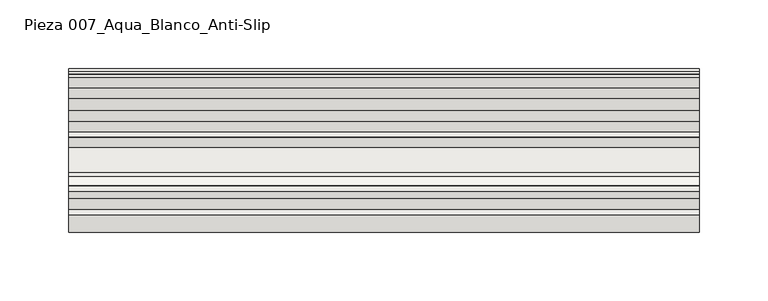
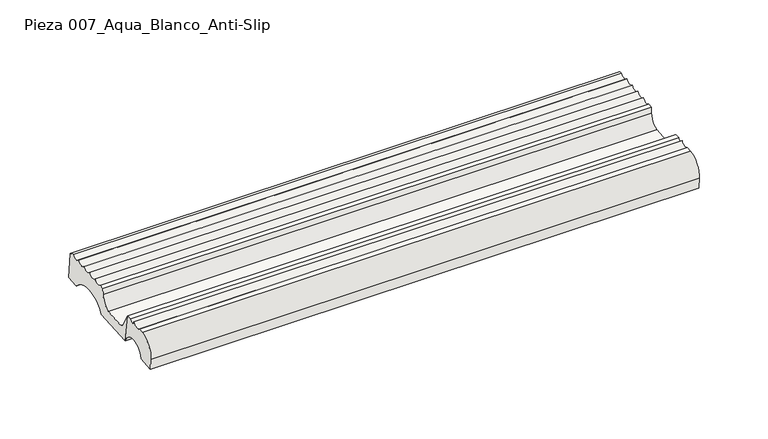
"""IFC4 building model written with IfcOpenShell, lengths in millimetres: slab geometry, ROSA GRES_007 : Pieza 007_Aqua_Blanco_Anti-Slip."""

import ifcopenshell
import ifcopenshell.guid

model = None  # the IFC model being written
_history = None  # IfcOwnerHistory: only IFC2X3 demands one
_inside = {}  # id of a spatial element -> (the spatial element, [elements in it])
_under = {}  # id of a project, library or spatial element -> (it, [spatial elements below it])
_declared = {}  # id of a project -> (the project, [libraries it declares])
_typed = {}  # id of a type object -> (the type object, [elements of that type])
_made_of = {}  # id of a material, layer set ... -> (it, [elements and type objects made of it])


def new_model(schema):
    """Start an empty IFC model of exactly this schema.

    Asked for "IFC4X3", IfcOpenShell would pick the latest addendum, in which some entities
    have other attributes; the version numbers below select the first issue.
    IFC2X3 requires an IfcOwnerHistory on every rooted entity: one is made here for all.
    """
    global model, _history
    if schema == "IFC4X3":
        model = ifcopenshell.file(schema_version=(4, 3, 0, 0))
    else:
        model = ifcopenshell.file(schema=schema)
    _inside.clear()
    _under.clear()
    _declared.clear()
    _typed.clear()
    _made_of.clear()
    _history = None
    if model.schema == "IFC2X3":
        org = make("IfcOrganization", Name="unknown")
        user = make(
            "IfcPersonAndOrganization",
            ThePerson=make("IfcPerson", FamilyName="unknown"),
            TheOrganization=org,
        )
        app = make(
            "IfcApplication",
            ApplicationDeveloper=org,
            Version="unknown",
            ApplicationFullName="unknown",
            ApplicationIdentifier="unknown",
        )
        _history = make(
            "IfcOwnerHistory",
            OwningUser=user,
            OwningApplication=app,
            ChangeAction="ADDED",
            CreationDate=0,
        )
    return model


def make(cls, **values):
    """One entity of the class cls with the attributes given. An attribute that is None is left unset."""
    return model.create_entity(
        cls, **{name: value for name, value in values.items() if value is not None}
    )


def rooted(cls, **values):
    """An entity with a GlobalId (a new one), such as an element, a storey or a relation."""
    return make(cls, GlobalId=ifcopenshell.guid.new(), OwnerHistory=_history, **values)


def si_unit(unit_type, name, prefix=None):
    """IfcSIUnit, for example si_unit("LENGTHUNIT", "METRE", prefix="MILLI")."""
    return make("IfcSIUnit", UnitType=unit_type, Prefix=prefix, Name=name)


def assignment(units):
    """IfcUnitAssignment: the units of a project."""
    return None if units is None else make("IfcUnitAssignment", Units=units)


def point(xyz):
    """IfcCartesianPoint."""
    return None if xyz is None else make("IfcCartesianPoint", Coordinates=xyz)


def direction(xyz):
    """IfcDirection."""
    return None if xyz is None else make("IfcDirection", DirectionRatios=xyz)


def frame(location, z_axis=None, x_axis=None):
    """IfcAxis2Placement3D, a coordinate frame: its origin and axes. An axis left out is left unset."""
    return make(
        "IfcAxis2Placement3D",
        Location=point(location),
        Axis=direction(z_axis),
        RefDirection=direction(x_axis),
    )


def frame_2d(location, x_axis=None):
    """IfcAxis2Placement2D, a coordinate frame in the plane: its origin and x axis."""
    return make(
        "IfcAxis2Placement2D", Location=point(location), RefDirection=direction(x_axis)
    )


def origin():
    """The frame at (0, 0, 0) with its axes left unset."""
    return frame((0.0, 0.0, 0.0))


def place(relative_to, where):
    """IfcLocalPlacement: puts the frame where relative to a parent placement (None: the world)."""
    return make(
        "IfcLocalPlacement", PlacementRelTo=relative_to, RelativePlacement=where
    )


def context(
    kind, dimensions, precision=None, world=None, true_north=None, identifier=None
):
    """IfcGeometricRepresentationContext, for example the 3D "Model" context."""
    return make(
        "IfcGeometricRepresentationContext",
        ContextIdentifier=identifier,
        ContextType=kind,
        CoordinateSpaceDimension=dimensions,
        Precision=precision,
        WorldCoordinateSystem=world,
        TrueNorth=true_north,
    )


def project(units=None, contexts=None):
    """IfcProject with its units and contexts."""
    return rooted(
        "IfcProject",
        Name="project",
        RepresentationContexts=contexts,
        UnitsInContext=assignment(units),
    )


def spatial(cls, under=None, at=None, **own):
    """A site, building, storey or space (cls), placed at a placement, below another one or the project."""
    s = rooted(cls, ObjectPlacement=at, **own)
    if under is not None:
        _under.setdefault(under.id(), (under, []))[1].append(s)
    return s


def polyline(points):
    """IfcPolyline through the points."""
    return make("IfcPolyline", Points=[point(p) for p in points])


def circle_curve(where, radius):
    """IfcCircle in the frame where."""
    return make("IfcCircle", Position=where, Radius=radius)


def trimmed(basis, trim1, trim2, sense, master):
    """IfcTrimmedCurve: the piece of a basis curve between two trims."""
    return make(
        "IfcTrimmedCurve",
        BasisCurve=basis,
        Trim1=trim1,
        Trim2=trim2,
        SenseAgreement=sense,
        MasterRepresentation=master,
    )


def segment(curve, same_sense, transition):
    """IfcCompositeCurveSegment."""
    return make(
        "IfcCompositeCurveSegment",
        Transition=transition,
        SameSense=same_sense,
        ParentCurve=curve,
    )


def composite_curve(segments, self_intersect=None):
    """IfcCompositeCurve: segments joined end to end."""
    return make("IfcCompositeCurve", Segments=segments, SelfIntersect=self_intersect)


def outline(outer, holes=None, kind="AREA"):
    """IfcArbitraryClosedProfileDef: a profile drawn as a closed curve; with holes, ...WithVoids."""
    if holes is None:
        return make("IfcArbitraryClosedProfileDef", ProfileType=kind, OuterCurve=outer)
    return make(
        "IfcArbitraryProfileDefWithVoids",
        ProfileType=kind,
        OuterCurve=outer,
        InnerCurves=holes,
    )


def extrude(swept, where, along, depth):
    """IfcExtrudedAreaSolid: the profile swept, set in the frame where, extruded along a direction by depth."""
    return make(
        "IfcExtrudedAreaSolid",
        SweptArea=swept,
        Position=where,
        ExtrudedDirection=direction(along),
        Depth=depth,
    )


def shape(context_of_items, identifier, shape_type, items):
    """IfcShapeRepresentation: the items that make up one representation, for example the "Body"."""
    return make(
        "IfcShapeRepresentation",
        ContextOfItems=context_of_items,
        RepresentationIdentifier=identifier,
        RepresentationType=shape_type,
        Items=items,
    )


def source(mapping_origin, context_of_items, identifier, shape_type, items):
    """IfcRepresentationMap: a shape defined once, which mapped items show again and again."""
    return make(
        "IfcRepresentationMap",
        MappingOrigin=mapping_origin,
        MappedRepresentation=shape(context_of_items, identifier, shape_type, items),
    )


def transform(
    local_origin,
    x_axis=None,
    y_axis=None,
    z_axis=None,
    scale=None,
    scale2=None,
    scale3=None,
    uniform=True,
):
    """IfcCartesianTransformationOperator3D, or its non-uniform kind. x_axis, y_axis, z_axis: its Axis1, 2, 3."""
    if uniform:
        return make(
            "IfcCartesianTransformationOperator3D",
            Axis1=direction(x_axis),
            Axis2=direction(y_axis),
            LocalOrigin=point(local_origin),
            Scale=scale,
            Axis3=direction(z_axis),
        )
    return make(
        "IfcCartesianTransformationOperator3DnonUniform",
        Axis1=direction(x_axis),
        Axis2=direction(y_axis),
        LocalOrigin=point(local_origin),
        Scale=scale,
        Axis3=direction(z_axis),
        Scale2=scale2,
        Scale3=scale3,
    )


def mapped(mapping_source, mapping_target):
    """IfcMappedItem: shows the shape of a source again, moved by a transform."""
    return make(
        "IfcMappedItem", MappingSource=mapping_source, MappingTarget=mapping_target
    )


def made_of(thing, what):
    """Note that an element or type object is made of a material, layer set ...; save() writes the relation."""
    if what is not None:
        _made_of.setdefault(what.id(), (what, []))[1].append(thing)
    return thing


def element(
    cls,
    number,
    at=None,
    inside=None,
    cuts=None,
    type_object=None,
    material=None,
    context=None,
    identifier="Body",
    shape_type=None,
    held_by="IfcProductDefinitionShape",
    body=None,
    shapes=None,
    **own,
):
    """One element of the class cls, such as IfcWall. Its Tag is "e" and its number.

    at: its placement. inside: the storey or other place that contains it. cuts: it is an
    opening in that element (IfcRelVoidsElement). A single representation is given by context,
    identifier, shape_type and body (its items); several are given by shapes. held_by: the class
    of the entity that holds the representations. save() writes the other relations.
    """
    e = rooted(cls, Tag="e%d" % number, ObjectPlacement=at, **own)
    if body is not None:
        shapes = [shape(context, identifier, shape_type, body)]
    if shapes is not None:
        e.Representation = make(held_by, Representations=shapes)
    if inside is not None:
        _inside.setdefault(inside.id(), (inside, []))[1].append(e)
    if cuts is not None:
        rooted(
            "IfcRelVoidsElement", RelatingBuildingElement=cuts, RelatedOpeningElement=e
        )
    if type_object is not None:
        _typed.setdefault(type_object.id(), (type_object, []))[1].append(e)
    return made_of(e, material)


def aggregate(whole, parts):
    """IfcRelAggregates: a whole, such as a stair, and the parts it consists of."""
    return rooted("IfcRelAggregates", RelatingObject=whole, RelatedObjects=parts)


def save(model, path):
    """Write the relations noted so far, then the file.

    IfcRelAggregates (storeys below a building ...), IfcRelContainedInSpatialStructure (elements
    in a storey), IfcRelDefinesByType, IfcRelAssociatesMaterial and IfcRelDeclares: one each for
    every whole, place, type object, material and project.
    """
    for whole, parts in _under.values():
        aggregate(whole, parts)
    for where, things in _inside.values():
        rooted(
            "IfcRelContainedInSpatialStructure",
            RelatedElements=things,
            RelatingStructure=where,
        )
    for kind, things in _typed.values():
        rooted("IfcRelDefinesByType", RelatedObjects=things, RelatingType=kind)
    for what, things in _made_of.values():
        rooted("IfcRelAssociatesMaterial", RelatedObjects=things, RelatingMaterial=what)
    for by, libraries in _declared.values():
        rooted("IfcRelDeclares", RelatingContext=by, RelatedDefinitions=libraries)
    model.write(path)


def pieza_007_aqua_blanco_anti_slip_1cb17571(model_context):
    return source(origin(), model_context, "Body", "SweptSolid", [
        extrude(outline(composite_curve([segment(polyline([(14.3742659, 174.3159971), (0.6896004, 173.202129), (-0.0710994, 182.547869)]), True, "CONTINUOUS"), segment(trimmed(circle_curve(frame_2d((15.1536138, 183.7870899)), 15.2750633), [point((-0.0710994, 182.547869))], [point((12.7748841, 198.875801))], False, "CARTESIAN"), True, "CONTINUOUS"), segment(polyline([(12.7748841, 198.875801), (16.9364731, 199.1796191)]), True, "CONTINUOUS"), segment(trimmed(circle_curve(frame_2d((20.3008643, 202.7650351)), 4.9167404), [point((16.9364731, 199.1796191))], [point((24.7247274, 200.6193952))], True, "CARTESIAN"), True, "CONTINUOUS"), segment(trimmed(circle_curve(frame_2d((27.3971937, 201.142641)), 2.7232081), [point((24.7247274, 200.6193952))], [point((29.9345538, 200.1538709))], True, "CARTESIAN"), True, "CONTINUOUS"), segment(polyline([(29.9345538, 200.1538709), (33.8762309, 200.4746837), (37.1820416, 176.172444)]), True, "CONTINUOUS"), segment(trimmed(circle_curve(frame_2d((25.9545763, 173.0767428)), 11.6464304), [point((37.1820416, 176.172444))], [point((14.3742659, 174.3159971))], True, "CARTESIAN"), True, "CONTINUOUS")], self_intersect=False)), frame((0.0, 0.0, 0.0), z_axis=(1.0, 0.0, 0.0), x_axis=(0.0, 1.0, 0.0)), (0.0, 0.0, 1.0), 459.8179054),
        extrude(outline(composite_curve([segment(polyline([(71.8498608, 178.9942432), (37.1820416, 176.172444), (33.8762309, 200.4746837)]), True, "CONTINUOUS"), segment(trimmed(circle_curve(frame_2d((106.9597263, 233.2212806)), 80.084561), [point((33.8762309, 200.4746837))], [point((40.9402045, 187.8896178))], True, "CARTESIAN"), True, "CONTINUOUS"), segment(trimmed(circle_curve(frame_2d((43.5817022, 189.3117604)), 3.0), [point((40.9402045, 187.8896178))], [point((43.8250834, 186.3216491))], True, "CARTESIAN"), True, "CONTINUOUS"), segment(polyline([(43.8250834, 186.3216491), (61.867532, 187.7902205)]), True, "CONTINUOUS"), segment(trimmed(circle_curve(frame_2d((57.0579989, 199.0821231)), 12.2734948), [point((61.867532, 187.7902205))], [point((69.3023399, 198.236672))], True, "CARTESIAN"), True, "CONTINUOUS"), segment(polyline([(69.3023399, 198.236672), (69.6579726, 203.3871621), (73.3820924, 203.6902881)]), True, "CONTINUOUS"), segment(trimmed(circle_curve(frame_2d((76.8218788, 206.722806)), 4.5856619), [point((73.3820924, 203.6902881))], [point((81.0271834, 204.8942251))], True, "CARTESIAN"), True, "CONTINUOUS"), segment(trimmed(circle_curve(frame_2d((84.8780848, 207.3839748)), 4.5856619), [point((81.0271834, 204.8942251))], [point((89.0833894, 205.555394))], True, "CARTESIAN"), True, "CONTINUOUS"), segment(trimmed(circle_curve(frame_2d((92.9342908, 208.0451437)), 4.5856619), [point((89.0833894, 205.555394))], [point((97.1292049, 206.1928503))], True, "CARTESIAN"), True, "CONTINUOUS"), segment(trimmed(circle_curve(frame_2d((100.9933064, 209.1504161)), 4.8660534), [point((97.1292049, 206.1928503))], [point((105.2742048, 206.836894))], True, "CARTESIAN"), True, "CONTINUOUS"), segment(trimmed(circle_curve(frame_2d((109.1074243, 209.7932705)), 4.8408403), [point((105.2742048, 206.836894))], [point((113.0660814, 207.0070959))], True, "CARTESIAN"), True, "CONTINUOUS"), segment(polyline([(113.0660814, 207.0070959), (115.3491545, 207.1930072), (115.5338707, 204.9236084), (117.4809059, 205.0820876), (119.2900344, 182.8556525), (108.342302, 181.9645582)]), True, "CONTINUOUS"), segment(trimmed(circle_curve(frame_2d((91.1625174, 167.3774726)), 22.5372595), [point((108.342302, 181.9645582))], [point((71.8498608, 178.9942432))], True, "CARTESIAN"), True, "CONTINUOUS")], self_intersect=False)), frame((0.0, 0.0, 0.0), z_axis=(1.0, 0.0, 0.0), x_axis=(0.0, 1.0, 0.0)), (0.0, 0.0, 1.0), 459.8179054),
    ])


if __name__ == "__main__":
    model = new_model("IFC4")
    model_context = context("Model", 3, world=origin())
    ifc_project = project(units=[si_unit("LENGTHUNIT", "METRE", prefix="MILLI")], contexts=[model_context])
    site = spatial("IfcSite", under=ifc_project)
    building = spatial("IfcBuilding", under=site)
    placement = place(None, origin())
    pieza_007_aqua_blanco_anti_slip_shape = pieza_007_aqua_blanco_anti_slip_1cb17571(model_context)
    element("IfcSlab", 1, ObjectType="ROSA GRES_007 : Pieza 007_Aqua_Blanco_Anti-Slip", at=placement, inside=building, context=model_context, shape_type="MappedRepresentation", body=[
        mapped(pieza_007_aqua_blanco_anti_slip_shape, transform((0.0, 0.0, 0.0), x_axis=(1.0, 0.0, 0.0), y_axis=(0.0, 1.0, 0.0), z_axis=(0.0, 0.0, 1.0))),
    ])
    save(model, "model.ifc")
